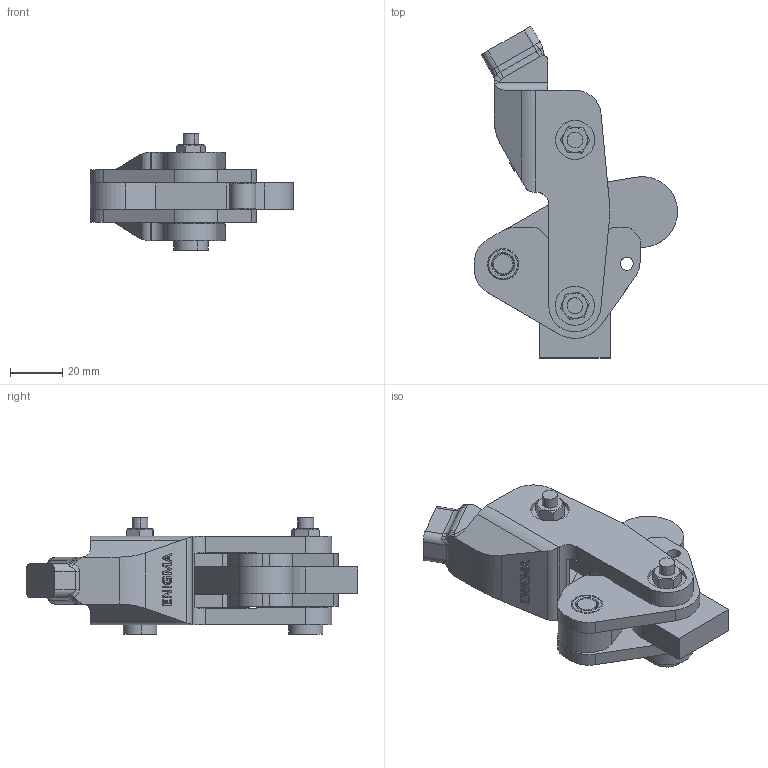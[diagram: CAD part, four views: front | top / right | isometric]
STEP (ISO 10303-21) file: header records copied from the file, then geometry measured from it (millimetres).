
FILE_DESCRIPTION (( 'STEP AP203' ), '1' );
FILE_NAME ('1503_U.STEP', '2022-12-02T07:06:54', ( '' ), ( '' ), 'SwSTEP 2.0', 'SolidWorks 2023', '' );
FILE_SCHEMA (( 'CONFIG_CONTROL_DESIGN' ));
Length unit declared in the file: millimetre
Products named in the file (13): 1503_U_Ana Kaynak_ONS_Varsayılan; 1503_U_Baskı Laması; G39x6x8x30_Varsayılan; 1503_U_Gövde_Varsayılan; 1533_mafsal_Varsayılan; 1503_U; 1533_cap5x10_on paralel burc_Varsayılan; 1533_cap8x18_ara mesafe burcu_Varsayılan; 1533_dovme mafsal_Varsayılan; M6 Somun_Varsayılan; 1533_Cap8x20 Tırtıllı Pim_Varsayılan; Burc_12x8x9_Varsayılan; Burc_1503_12x8x5_Varsayılan
Assembly tree (24 placements, depth 2):
  1503_U
    1503_U_Gövde_Varsayılan  x2
    1533_mafsal_Varsayılan  x2
    1533_dovme mafsal_Varsayılan
    G39x6x8x30_Varsayılan  x2
    M6 Somun_Varsayılan  x2
    1533_Cap8x20 Tırtıllı Pim_Varsayılan  x2
    1533_cap8x18_ara mesafe burcu_Varsayılan
    Burc_1503_12x8x5_Varsayılan  x8
    1503_U_Baskı Laması
    1533_cap5x10_on paralel burc_Varsayılan
    1503_U_Ana Kaynak_ONS_Varsayılan
    Burc_12x8x9_Varsayılan
Bounding box: 77.86 x 127.19 x 44.5 mm (x, y, z)
Volume: 111760.5 mm3; surface area: 50179.6 mm2
Topology: 24 solids, 24 shells, 1424 faces, 3655 edges, 2394 vertices
Faces by surface type: plane 970, cylinder 217, bspline 121, cone 112, torus 4
Entity records: 28353 total; most frequent: CARTESIAN_POINT 9935, ORIENTED_EDGE 3672, DIRECTION 3122, EDGE_CURVE 1836, VERTEX_POINT 1204, VECTOR 1112, LINE 1112, AXIS2_PLACEMENT_3D 1005
